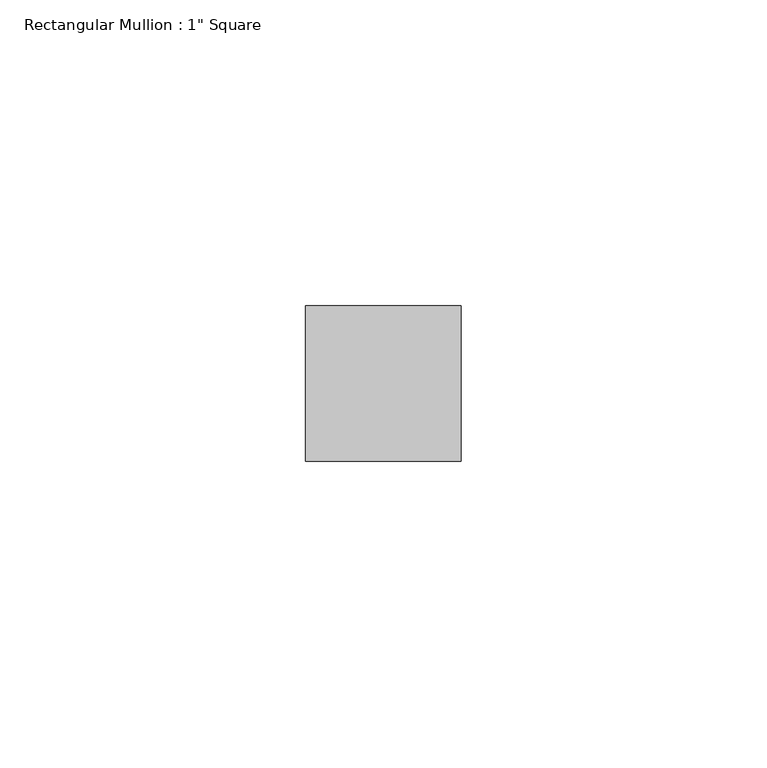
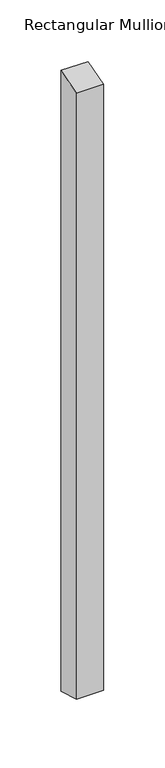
"""IFC4 building model written with IfcOpenShell, lengths in millimetres: member geometry."""

import ifcopenshell
import ifcopenshell.guid

model = None  # the IFC model being written
_history = None  # IfcOwnerHistory: only IFC2X3 demands one
_inside = {}  # id of a spatial element -> (the spatial element, [elements in it])
_under = {}  # id of a project, library or spatial element -> (it, [spatial elements below it])
_declared = {}  # id of a project -> (the project, [libraries it declares])
_typed = {}  # id of a type object -> (the type object, [elements of that type])
_made_of = {}  # id of a material, layer set ... -> (it, [elements and type objects made of it])


def new_model(schema):
    """Start an empty IFC model of exactly this schema.

    Asked for "IFC4X3", IfcOpenShell would pick the latest addendum, in which some entities
    have other attributes; the version numbers below select the first issue.
    IFC2X3 requires an IfcOwnerHistory on every rooted entity: one is made here for all.
    """
    global model, _history
    if schema == "IFC4X3":
        model = ifcopenshell.file(schema_version=(4, 3, 0, 0))
    else:
        model = ifcopenshell.file(schema=schema)
    _inside.clear()
    _under.clear()
    _declared.clear()
    _typed.clear()
    _made_of.clear()
    _history = None
    if model.schema == "IFC2X3":
        org = make("IfcOrganization", Name="unknown")
        user = make(
            "IfcPersonAndOrganization",
            ThePerson=make("IfcPerson", FamilyName="unknown"),
            TheOrganization=org,
        )
        app = make(
            "IfcApplication",
            ApplicationDeveloper=org,
            Version="unknown",
            ApplicationFullName="unknown",
            ApplicationIdentifier="unknown",
        )
        _history = make(
            "IfcOwnerHistory",
            OwningUser=user,
            OwningApplication=app,
            ChangeAction="ADDED",
            CreationDate=0,
        )
    return model


def make(cls, **values):
    """One entity of the class cls with the attributes given. An attribute that is None is left unset."""
    return model.create_entity(
        cls, **{name: value for name, value in values.items() if value is not None}
    )


def rooted(cls, **values):
    """An entity with a GlobalId (a new one), such as an element, a storey or a relation."""
    return make(cls, GlobalId=ifcopenshell.guid.new(), OwnerHistory=_history, **values)


def si_unit(unit_type, name, prefix=None):
    """IfcSIUnit, for example si_unit("LENGTHUNIT", "METRE", prefix="MILLI")."""
    return make("IfcSIUnit", UnitType=unit_type, Prefix=prefix, Name=name)


def assignment(units):
    """IfcUnitAssignment: the units of a project."""
    return None if units is None else make("IfcUnitAssignment", Units=units)


def point(xyz):
    """IfcCartesianPoint."""
    return None if xyz is None else make("IfcCartesianPoint", Coordinates=xyz)


def direction(xyz):
    """IfcDirection."""
    return None if xyz is None else make("IfcDirection", DirectionRatios=xyz)


def frame(location, z_axis=None, x_axis=None):
    """IfcAxis2Placement3D, a coordinate frame: its origin and axes. An axis left out is left unset."""
    return make(
        "IfcAxis2Placement3D",
        Location=point(location),
        Axis=direction(z_axis),
        RefDirection=direction(x_axis),
    )


def origin():
    """The frame at (0, 0, 0) with its axes left unset."""
    return frame((0.0, 0.0, 0.0))


def place(relative_to, where):
    """IfcLocalPlacement: puts the frame where relative to a parent placement (None: the world)."""
    return make(
        "IfcLocalPlacement", PlacementRelTo=relative_to, RelativePlacement=where
    )


def context(
    kind, dimensions, precision=None, world=None, true_north=None, identifier=None
):
    """IfcGeometricRepresentationContext, for example the 3D "Model" context."""
    return make(
        "IfcGeometricRepresentationContext",
        ContextIdentifier=identifier,
        ContextType=kind,
        CoordinateSpaceDimension=dimensions,
        Precision=precision,
        WorldCoordinateSystem=world,
        TrueNorth=true_north,
    )


def project(units=None, contexts=None):
    """IfcProject with its units and contexts."""
    return rooted(
        "IfcProject",
        Name="project",
        RepresentationContexts=contexts,
        UnitsInContext=assignment(units),
    )


def spatial(cls, under=None, at=None, **own):
    """A site, building, storey or space (cls), placed at a placement, below another one or the project."""
    s = rooted(cls, ObjectPlacement=at, **own)
    if under is not None:
        _under.setdefault(under.id(), (under, []))[1].append(s)
    return s


def faces_of(points, faces, orient=None, outer=None):
    """IfcFace entities. A face is a list of loops; a loop is a list of indices into points, from 0.

    orient and outer hold one flag for each loop. By default every Orientation is true, the
    first loop of a face is its IfcFaceOuterBound and the others are IfcFaceBound.
    """
    made = []
    for i, loops in enumerate(faces):
        bounds = []
        for j, loop in enumerate(loops):
            is_outer = j == 0 if outer is None else outer[i][j]
            bounds.append(
                make(
                    "IfcFaceOuterBound" if is_outer else "IfcFaceBound",
                    Bound=make("IfcPolyLoop", Polygon=[points[k] for k in loop]),
                    Orientation=True if orient is None else orient[i][j],
                )
            )
        made.append(make("IfcFace", Bounds=bounds))
    return made


def faceted_brep(points, faces, orient=None, outer=None, voids=None):
    """IfcFacetedBrep: a solid bounded by flat faces; with voids (closed shells), ...WithVoids."""
    shared = [point(p) for p in points]
    hull = make("IfcClosedShell", CfsFaces=faces_of(shared, faces, orient, outer))
    if voids is None:
        return make("IfcFacetedBrep", Outer=hull)
    return make(
        "IfcFacetedBrepWithVoids",
        Outer=hull,
        Voids=[
            make(cls, CfsFaces=faces_of(shared, fs, o, b)) for cls, fs, o, b in voids
        ],
    )


def shape(context_of_items, identifier, shape_type, items):
    """IfcShapeRepresentation: the items that make up one representation, for example the "Body"."""
    return make(
        "IfcShapeRepresentation",
        ContextOfItems=context_of_items,
        RepresentationIdentifier=identifier,
        RepresentationType=shape_type,
        Items=items,
    )


def source(mapping_origin, context_of_items, identifier, shape_type, items):
    """IfcRepresentationMap: a shape defined once, which mapped items show again and again."""
    return make(
        "IfcRepresentationMap",
        MappingOrigin=mapping_origin,
        MappedRepresentation=shape(context_of_items, identifier, shape_type, items),
    )


def transform(
    local_origin,
    x_axis=None,
    y_axis=None,
    z_axis=None,
    scale=None,
    scale2=None,
    scale3=None,
    uniform=True,
):
    """IfcCartesianTransformationOperator3D, or its non-uniform kind. x_axis, y_axis, z_axis: its Axis1, 2, 3."""
    if uniform:
        return make(
            "IfcCartesianTransformationOperator3D",
            Axis1=direction(x_axis),
            Axis2=direction(y_axis),
            LocalOrigin=point(local_origin),
            Scale=scale,
            Axis3=direction(z_axis),
        )
    return make(
        "IfcCartesianTransformationOperator3DnonUniform",
        Axis1=direction(x_axis),
        Axis2=direction(y_axis),
        LocalOrigin=point(local_origin),
        Scale=scale,
        Axis3=direction(z_axis),
        Scale2=scale2,
        Scale3=scale3,
    )


def mapped(mapping_source, mapping_target):
    """IfcMappedItem: shows the shape of a source again, moved by a transform."""
    return make(
        "IfcMappedItem", MappingSource=mapping_source, MappingTarget=mapping_target
    )


def made_of(thing, what):
    """Note that an element or type object is made of a material, layer set ...; save() writes the relation."""
    if what is not None:
        _made_of.setdefault(what.id(), (what, []))[1].append(thing)
    return thing


def element(
    cls,
    number,
    at=None,
    inside=None,
    cuts=None,
    type_object=None,
    material=None,
    context=None,
    identifier="Body",
    shape_type=None,
    held_by="IfcProductDefinitionShape",
    body=None,
    shapes=None,
    **own,
):
    """One element of the class cls, such as IfcWall. Its Tag is "e" and its number.

    at: its placement. inside: the storey or other place that contains it. cuts: it is an
    opening in that element (IfcRelVoidsElement). A single representation is given by context,
    identifier, shape_type and body (its items); several are given by shapes. held_by: the class
    of the entity that holds the representations. save() writes the other relations.
    """
    e = rooted(cls, Tag="e%d" % number, ObjectPlacement=at, **own)
    if body is not None:
        shapes = [shape(context, identifier, shape_type, body)]
    if shapes is not None:
        e.Representation = make(held_by, Representations=shapes)
    if inside is not None:
        _inside.setdefault(inside.id(), (inside, []))[1].append(e)
    if cuts is not None:
        rooted(
            "IfcRelVoidsElement", RelatingBuildingElement=cuts, RelatedOpeningElement=e
        )
    if type_object is not None:
        _typed.setdefault(type_object.id(), (type_object, []))[1].append(e)
    return made_of(e, material)


def aggregate(whole, parts):
    """IfcRelAggregates: a whole, such as a stair, and the parts it consists of."""
    return rooted("IfcRelAggregates", RelatingObject=whole, RelatedObjects=parts)


def save(model, path):
    """Write the relations noted so far, then the file.

    IfcRelAggregates (storeys below a building ...), IfcRelContainedInSpatialStructure (elements
    in a storey), IfcRelDefinesByType, IfcRelAssociatesMaterial and IfcRelDeclares: one each for
    every whole, place, type object, material and project.
    """
    for whole, parts in _under.values():
        aggregate(whole, parts)
    for where, things in _inside.values():
        rooted(
            "IfcRelContainedInSpatialStructure",
            RelatedElements=things,
            RelatingStructure=where,
        )
    for kind, things in _typed.values():
        rooted("IfcRelDefinesByType", RelatedObjects=things, RelatingType=kind)
    for what, things in _made_of.values():
        rooted("IfcRelAssociatesMaterial", RelatedObjects=things, RelatingMaterial=what)
    for by, libraries in _declared.values():
        rooted("IfcRelDeclares", RelatingContext=by, RelatedDefinitions=libraries)
    model.write(path)


def member_35237229(model_context):
    return source(origin(), model_context, "Body", "Brep", [
        faceted_brep([(-25.4, 12.7, 3.845146), (0.0, 12.7, 3.7078044), (0.0, 12.7, -613.3078044), (-25.4, 12.7, -613.445146), (-25.4, -12.7, -3.5704629), (-25.4, -12.7, -606.0295371), (0.0, -12.7, -3.7078044), (0.0, -12.7, -605.8921956)], [[[0, 1, 2, 3]], [[4, 0, 3, 5]], [[6, 4, 5, 7]], [[1, 6, 7, 2]], [[1, 0, 4, 6]], [[2, 7, 5, 3]]]),
    ])


if __name__ == "__main__":
    model = new_model("IFC4")
    model_context = context("Model", 3, world=origin())
    ifc_project = project(units=[si_unit("LENGTHUNIT", "METRE", prefix="MILLI")], contexts=[model_context])
    site = spatial("IfcSite", under=ifc_project)
    building = spatial("IfcBuilding", under=site)
    placement = place(None, origin())
    member_shape = member_35237229(model_context)
    element("IfcMember", 1, ObjectType="Rectangular Mullion : 1\" Square", at=placement, inside=building, context=model_context, shape_type="MappedRepresentation", body=[
        mapped(member_shape, transform((0.0, 0.0, 0.0), x_axis=(1.0, 0.0, 0.0), y_axis=(0.0, 1.0, 0.0), z_axis=(0.0, 0.0, 1.0))),
    ])
    save(model, "model.ifc")
